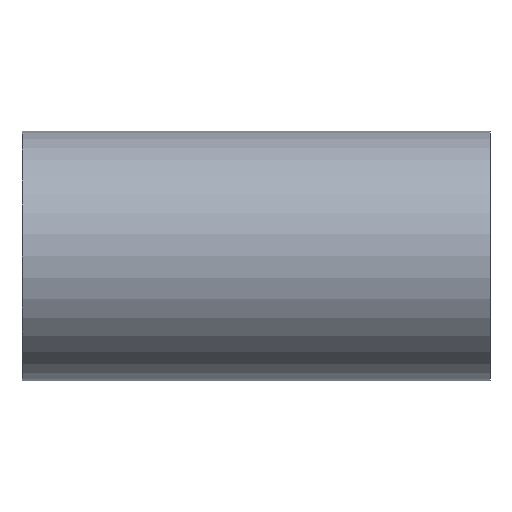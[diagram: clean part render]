
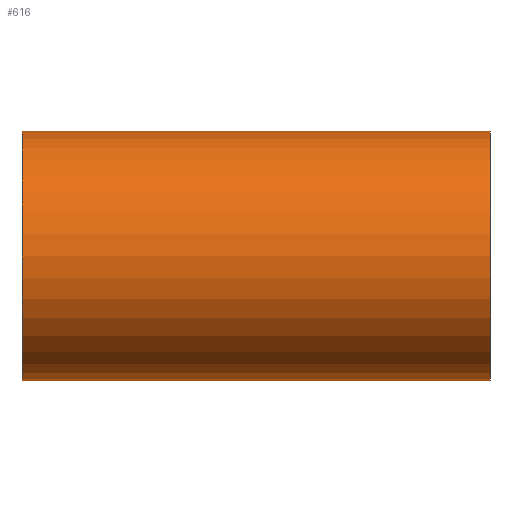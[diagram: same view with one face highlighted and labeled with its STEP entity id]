
A CAD part, front view. The second image highlights one B-rep face of the part: STEP entity #616.
In plain terms, the highlighted cylindrical face has radius 76.2 mm (diameter 152.4 mm), a partial arc.
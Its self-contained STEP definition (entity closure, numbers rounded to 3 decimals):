
#4 = AXIS2_PLACEMENT_3D ( 'NONE', #278, #522, #352 ) ;
#13 = CIRCLE ( 'NONE', #4, 76.2 ) ;
#17 = EDGE_CURVE ( 'NONE', #243, #311, #240, .T. ) ;
#30 = AXIS2_PLACEMENT_3D ( 'NONE', #91, #86, #135 ) ;
#56 = VERTEX_POINT ( 'NONE', #131 ) ;
#70 = CARTESIAN_POINT ( 'NONE',  ( -142.9, 0., -76.2 ) ) ;
#86 = DIRECTION ( 'NONE',  ( -1., 0., 0. ) ) ;
#91 = CARTESIAN_POINT ( 'NONE',  ( 142.9, 0., 0. ) ) ;
#131 = CARTESIAN_POINT ( 'NONE',  ( -142.9, 0., -76.2 ) ) ;
#135 = DIRECTION ( 'NONE',  ( 0., 0., -1. ) ) ;
#168 = EDGE_LOOP ( 'NONE', ( #324, #638, #231, #261 ) ) ;
#176 = CARTESIAN_POINT ( 'NONE',  ( 142.9, 0., 76.2 ) ) ;
#231 = ORIENTED_EDGE ( 'NONE', *, *, #472, .T. ) ;
#240 = CIRCLE ( 'NONE', #30, 76.2 ) ;
#243 = VERTEX_POINT ( 'NONE', #403 ) ;
#251 = CYLINDRICAL_SURFACE ( 'NONE', #618, 76.2 ) ;
#261 = ORIENTED_EDGE ( 'NONE', *, *, #17, .T. ) ;
#278 = CARTESIAN_POINT ( 'NONE',  ( -142.9, 0., 0. ) ) ;
#311 = VERTEX_POINT ( 'NONE', #176 ) ;
#324 = ORIENTED_EDGE ( 'NONE', *, *, #597, .F. ) ;
#352 = DIRECTION ( 'NONE',  ( 0., 0., -1. ) ) ;
#373 = VECTOR ( 'NONE', #566, 1000. ) ;
#403 = CARTESIAN_POINT ( 'NONE',  ( 142.9, 0., -76.2 ) ) ;
#444 = CARTESIAN_POINT ( 'NONE',  ( -142.9, 0., 76.2 ) ) ;
#456 = EDGE_CURVE ( 'NONE', #545, #56, #13, .T. ) ;
#468 = LINE ( 'NONE', #583, #547 ) ;
#472 = EDGE_CURVE ( 'NONE', #56, #243, #640, .T. ) ;
#522 = DIRECTION ( 'NONE',  ( 1., 0., 0. ) ) ;
#541 = DIRECTION ( 'NONE',  ( 1., 0., 0. ) ) ;
#545 = VERTEX_POINT ( 'NONE', #444 ) ;
#547 = VECTOR ( 'NONE', #585, 1000. ) ;
#552 = DIRECTION ( 'NONE',  ( 0., 0., -1. ) ) ;
#566 = DIRECTION ( 'NONE',  ( 1., 0., 0. ) ) ;
#583 = CARTESIAN_POINT ( 'NONE',  ( -142.9, 0., 76.2 ) ) ;
#584 = CARTESIAN_POINT ( 'NONE',  ( -142.9, 0., 0. ) ) ;
#585 = DIRECTION ( 'NONE',  ( 1., 0., 0. ) ) ;
#597 = EDGE_CURVE ( 'NONE', #545, #311, #468, .T. ) ;
#616 = ADVANCED_FACE ( 'NONE', ( #630 ), #251, .T. ) ;
#618 = AXIS2_PLACEMENT_3D ( 'NONE', #584, #541, #552 ) ;
#630 = FACE_OUTER_BOUND ( 'NONE', #168, .T. ) ;
#638 = ORIENTED_EDGE ( 'NONE', *, *, #456, .T. ) ;
#640 = LINE ( 'NONE', #70, #373 ) ;
